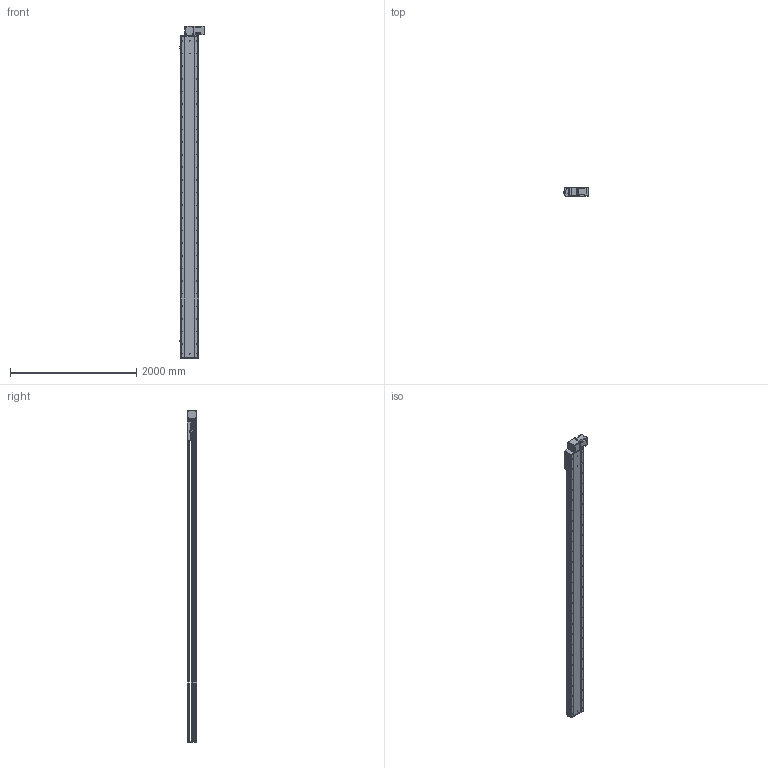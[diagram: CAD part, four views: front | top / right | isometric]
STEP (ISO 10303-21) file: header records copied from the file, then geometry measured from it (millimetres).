
FILE_DESCRIPTION (( 'STEP AP214' ), '1' );
FILE_NAME ('RTB28S-XX-4650-BL-M100-XX-C4.STEP', '2025-12-22T02:47:42', ( '' ), ( '' ), 'SwSTEP 2.0', 'SolidWorks 2018', '' );
FILE_SCHEMA (( 'AUTOMOTIVE_DESIGN' ));
Length unit declared in the file: millimetre
Products named in the file (4): RTB28S-GY-008^RTB28S-XX-XX-BL-M100-XX-C4; RTB28S-XX-4650-BL-M100-XX-C4; RTB28S-GY-011^RTB28S-XX-XX-BL-M100-XX-C4; RTB28S-GY-004^RTB28S-XX-XX-BL-M100-XX-C4
Assembly tree (3 placements, depth 2):
  RTB28S-XX-4650-BL-M100-XX-C4
    RTB28S-GY-011^RTB28S-XX-XX-BL-M100-XX-C4
    RTB28S-GY-004^RTB28S-XX-XX-BL-M100-XX-C4
    RTB28S-GY-008^RTB28S-XX-XX-BL-M100-XX-C4
Bounding box: 380.7 x 145 x 5257 mm (x, y, z)
Volume: 87096885.9 mm3; surface area: 8047923.9 mm2
Topology: 3 solids, 4 shells, 968 faces, 2628 edges, 1688 vertices
Faces by surface type: cylinder 503, plane 381, cone 80, torus 4
Entity records: 38261 total; most frequent: CARTESIAN_POINT 7702, DIRECTION 5610, ORIENTED_EDGE 5192, EDGE_CURVE 2596, AXIS2_PLACEMENT_3D 2100, VERTEX_POINT 1688, LINE 1410, VECTOR 1410
